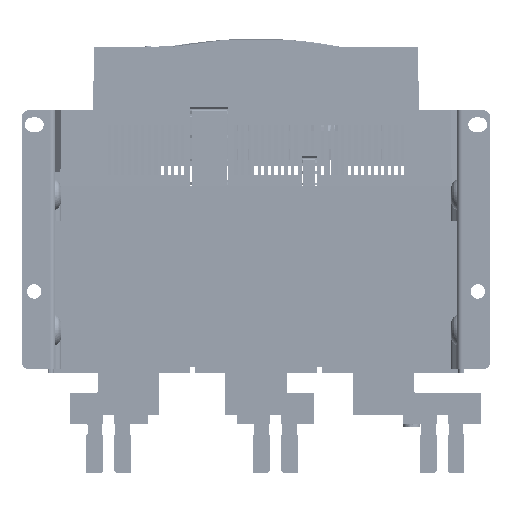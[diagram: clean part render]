
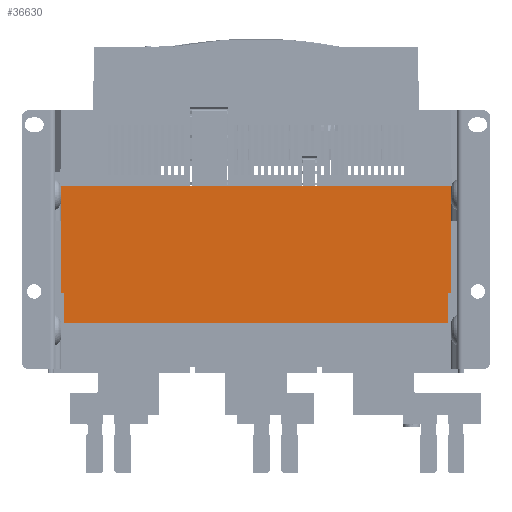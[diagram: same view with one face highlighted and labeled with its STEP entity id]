
A CAD part, front view. The second image highlights one B-rep face of the part: STEP entity #36630.
In plain terms, the highlighted planar face has unit normal (0, -1, 0).
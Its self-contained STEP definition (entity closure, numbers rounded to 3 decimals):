
#36630=ADVANCED_FACE('',(#91158),#91160,.F.);
#91158=FACE_BOUND('',#91159,.T.);
#91159=EDGE_LOOP('',(#134757,#134758,#134759,#134760,#134761,#134762,#134763,#134764));
#91160=PLANE('',#91161);
#91161=AXIS2_PLACEMENT_3D('',#91162,#91163,#91164);
#91162=CARTESIAN_POINT('',(58.472,79.913,309.114));
#91163=DIRECTION('',(-0.,1.,0.));
#91164=DIRECTION('',(1.,0.,0.));
#134757=ORIENTED_EDGE('',*,*,#155642,.F.);
#134758=ORIENTED_EDGE('',*,*,#155532,.F.);
#134759=ORIENTED_EDGE('',*,*,#155529,.F.);
#134760=ORIENTED_EDGE('',*,*,#155784,.F.);
#134761=ORIENTED_EDGE('',*,*,#155786,.F.);
#134762=ORIENTED_EDGE('',*,*,#155787,.F.);
#134763=ORIENTED_EDGE('',*,*,#155557,.F.);
#134764=ORIENTED_EDGE('',*,*,#155524,.F.);
#155524=EDGE_CURVE('',#177657,#177659,#177660,.T.);
#155529=EDGE_CURVE('',#177666,#177668,#177669,.T.);
#155532=EDGE_CURVE('',#177668,#177672,#177673,.T.);
#155557=EDGE_CURVE('',#177659,#177717,#177718,.T.);
#155642=EDGE_CURVE('',#177672,#177657,#177867,.T.);
#155784=EDGE_CURVE('',#178113,#177666,#178115,.T.);
#155786=EDGE_CURVE('',#178117,#178113,#178118,.T.);
#155787=EDGE_CURVE('',#177717,#178117,#178119,.T.);
#177657=VERTEX_POINT('',#255793);
#177659=VERTEX_POINT('',#255797);
#177660=LINE('',#255798,#255799);
#177666=VERTEX_POINT('',#255812);
#177668=VERTEX_POINT('',#255816);
#177669=LINE('',#255817,#255818);
#177672=VERTEX_POINT('',#255826);
#177673=LINE('',#255827,#255828);
#177717=VERTEX_POINT('',#255927);
#177718=LINE('',#255928,#255929);
#177867=LINE('',#256773,#256774);
#178113=VERTEX_POINT('',#257565);
#178115=LINE('',#257569,#257570);
#178117=VERTEX_POINT('',#257575);
#178118=LINE('',#257576,#257577);
#178119=LINE('',#257579,#257580);
#255793=CARTESIAN_POINT('',(-114.028,79.913,247.614));
#255797=CARTESIAN_POINT('',(-114.028,79.913,274.614));
#255798=CARTESIAN_POINT('',(-114.028,79.913,247.614));
#255799=VECTOR('',#255800,1.);
#255800=DIRECTION('',(0.,0.,1.));
#255812=CARTESIAN_POINT('',(233.972,79.913,274.614));
#255816=CARTESIAN_POINT('',(230.972,79.913,274.614));
#255817=CARTESIAN_POINT('',(233.972,79.913,274.614));
#255818=VECTOR('',#255819,1.);
#255819=DIRECTION('',(-1.,0.,0.));
#255826=CARTESIAN_POINT('',(230.972,79.913,247.614));
#255827=CARTESIAN_POINT('',(230.972,79.913,274.614));
#255828=VECTOR('',#255829,1.);
#255829=DIRECTION('',(0.,0.,-1.));
#255927=CARTESIAN_POINT('',(-117.028,79.913,274.614));
#255928=CARTESIAN_POINT('',(-114.028,79.913,274.614));
#255929=VECTOR('',#255930,1.);
#255930=DIRECTION('',(-1.,0.,0.));
#256773=CARTESIAN_POINT('',(230.972,79.913,247.614));
#256774=VECTOR('',#256775,1.);
#256775=DIRECTION('',(-1.,0.,0.));
#257565=CARTESIAN_POINT('',(233.972,79.913,370.614));
#257569=CARTESIAN_POINT('',(233.972,79.913,370.614));
#257570=VECTOR('',#257571,1.);
#257571=DIRECTION('',(0.,0.,-1.));
#257575=CARTESIAN_POINT('',(-117.028,79.913,370.614));
#257576=CARTESIAN_POINT('',(-117.028,79.913,370.614));
#257577=VECTOR('',#257578,1.);
#257578=DIRECTION('',(1.,0.,0.));
#257579=CARTESIAN_POINT('',(-117.028,79.913,274.614));
#257580=VECTOR('',#257581,1.);
#257581=DIRECTION('',(0.,0.,1.));
